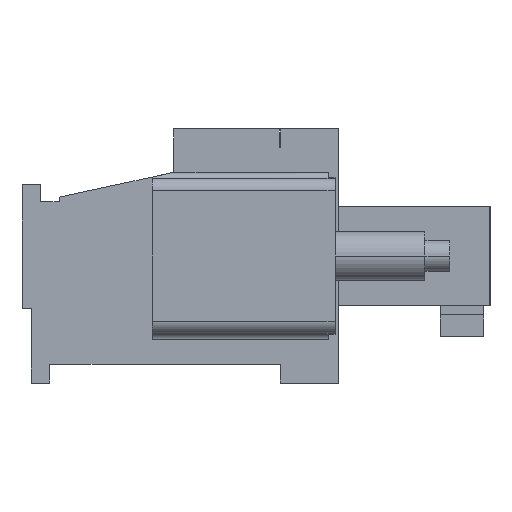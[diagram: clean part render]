
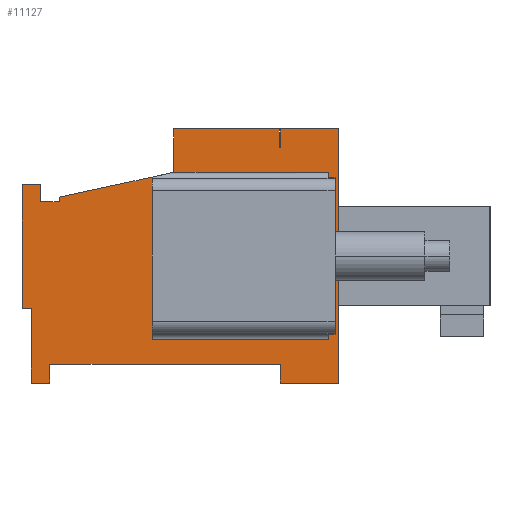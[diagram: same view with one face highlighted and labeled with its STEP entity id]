
A CAD part, left-side view. The second image highlights one B-rep face of the part: STEP entity #11127.
In plain terms, the highlighted planar face has unit normal (-1, 0, 0).
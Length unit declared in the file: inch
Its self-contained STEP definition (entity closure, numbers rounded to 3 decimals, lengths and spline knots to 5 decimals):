
#1=DIRECTION('',(0.,1.,0.));
#2=VECTOR('',#1,0.25);
#3=CARTESIAN_POINT('',(-0.8405,0.,-0.07));
#4=LINE('',#3,#2);
#5=DIRECTION('',(0.,0.,1.));
#6=VECTOR('',#5,0.07);
#7=CARTESIAN_POINT('',(-0.8405,0.25,-0.07));
#8=LINE('',#7,#6);
#9=DIRECTION('',(0.,-1.,0.));
#10=VECTOR('',#9,0.17);
#11=CARTESIAN_POINT('',(-0.8405,0.25,0.));
#12=LINE('',#11,#10);
#13=DIRECTION('',(0.,0.,-1.));
#14=VECTOR('',#13,0.03);
#15=CARTESIAN_POINT('',(-0.8405,0.08,0.));
#16=LINE('',#15,#14);
#17=DIRECTION('',(0.,-1.,0.));
#18=VECTOR('',#17,0.002);
#19=CARTESIAN_POINT('',(-0.8405,0.08,-0.03));
#20=LINE('',#19,#18);
#21=DIRECTION('',(0.,0.,1.));
#22=VECTOR('',#21,0.03);
#23=CARTESIAN_POINT('',(-0.8405,0.078,-0.03));
#24=LINE('',#23,#22);
#25=DIRECTION('',(0.,1.,0.));
#26=VECTOR('',#25,0.093);
#27=CARTESIAN_POINT('',(-0.8405,-0.015,0.));
#28=LINE('',#27,#26);
#29=DIRECTION('',(0.,0.,-1.));
#30=VECTOR('',#29,0.41);
#31=CARTESIAN_POINT('',(-0.8405,-0.015,0.));
#32=LINE('',#31,#30);
#33=DIRECTION('',(0.,-1.,0.));
#34=VECTOR('',#33,0.093);
#35=CARTESIAN_POINT('',(-0.8405,0.078,-0.41));
#36=LINE('',#35,#34);
#37=DIRECTION('',(0.,0.,1.));
#38=VECTOR('',#37,0.03);
#39=CARTESIAN_POINT('',(-0.8405,0.078,-0.41));
#40=LINE('',#39,#38);
#41=DIRECTION('',(0.,1.,0.));
#42=VECTOR('',#41,0.372);
#43=CARTESIAN_POINT('',(-0.8405,0.078,-0.38));
#44=LINE('',#43,#42);
#45=DIRECTION('',(0.,0.,-1.));
#46=VECTOR('',#45,0.03);
#47=CARTESIAN_POINT('',(-0.8405,0.45,-0.38));
#48=LINE('',#47,#46);
#49=DIRECTION('',(0.,1.,0.));
#50=VECTOR('',#49,0.03);
#51=CARTESIAN_POINT('',(-0.8405,0.45,-0.41));
#52=LINE('',#51,#50);
#53=DIRECTION('',(0.,0.,1.));
#54=VECTOR('',#53,0.12);
#55=CARTESIAN_POINT('',(-0.8405,0.48,-0.41));
#56=LINE('',#55,#54);
#57=DIRECTION('',(0.,1.,0.));
#58=VECTOR('',#57,0.015);
#59=CARTESIAN_POINT('',(-0.8405,0.48,-0.29));
#60=LINE('',#59,#58);
#61=DIRECTION('',(0.,0.,1.));
#62=VECTOR('',#61,0.2);
#63=CARTESIAN_POINT('',(-0.8405,0.495,-0.29));
#64=LINE('',#63,#62);
#65=DIRECTION('',(0.,-1.,0.));
#66=VECTOR('',#65,0.03);
#67=CARTESIAN_POINT('',(-0.8405,0.495,-0.09));
#68=LINE('',#67,#66);
#69=DIRECTION('',(0.,0.,-1.));
#70=VECTOR('',#69,0.0275);
#71=CARTESIAN_POINT('',(-0.8405,0.465,-0.09));
#72=LINE('',#71,#70);
#73=DIRECTION('',(0.,0.,1.));
#74=VECTOR('',#73,0.0075);
#75=CARTESIAN_POINT('',(-0.8405,0.435,-0.1175));
#76=LINE('',#75,#74);
#77=DIRECTION('',(0.,-0.977,0.211));
#78=VECTOR('',#77,0.15347);
#79=CARTESIAN_POINT('',(-0.8405,0.435,-0.11));
#80=LINE('',#79,#78);
#81=DIRECTION('',(0.,-1.,0.));
#82=VECTOR('',#81,0.285);
#83=CARTESIAN_POINT('',(-0.8405,0.285,-0.34));
#84=LINE('',#83,#82);
#104=DIRECTION('',(0.,0.,-1.));
#105=VECTOR('',#104,0.27);
#106=CARTESIAN_POINT('',(-0.8405,0.,-0.07));
#107=LINE('',#106,#105);
#195=DIRECTION('',(0.,0.,1.));
#196=VECTOR('',#195,0.26243);
#197=CARTESIAN_POINT('',(-0.8405,0.285,-0.34));
#198=LINE('',#197,#196);
#2413=DIRECTION('',(0.,-1.,0.));
#2414=VECTOR('',#2413,0.03);
#2415=CARTESIAN_POINT('',(-0.8405,0.465,-0.1175));
#2416=LINE('',#2415,#2414);
#8441=CARTESIAN_POINT('',(-0.8405,0.45,-0.38));
#8442=CARTESIAN_POINT('',(-0.8405,0.45,-0.41));
#8443=VERTEX_POINT('',#8441);
#8444=VERTEX_POINT('',#8442);
#8445=CARTESIAN_POINT('',(-0.8405,0.48,-0.41));
#8446=VERTEX_POINT('',#8445);
#8447=CARTESIAN_POINT('',(-0.8405,0.48,-0.29));
#8448=VERTEX_POINT('',#8447);
#8449=CARTESIAN_POINT('',(-0.8405,0.495,-0.29));
#8450=VERTEX_POINT('',#8449);
#8451=CARTESIAN_POINT('',(-0.8405,0.495,-0.09));
#8452=VERTEX_POINT('',#8451);
#8453=CARTESIAN_POINT('',(-0.8405,0.465,-0.09));
#8454=VERTEX_POINT('',#8453);
#8455=CARTESIAN_POINT('',(-0.8405,0.25,0.));
#8456=CARTESIAN_POINT('',(-0.8405,0.08,0.));
#8457=VERTEX_POINT('',#8455);
#8458=VERTEX_POINT('',#8456);
#8477=CARTESIAN_POINT('',(-0.8405,0.435,-0.11));
#8479=VERTEX_POINT('',#8477);
#8481=CARTESIAN_POINT('',(-0.8405,0.08,-0.03));
#8482=VERTEX_POINT('',#8481);
#8493=CARTESIAN_POINT('',(-0.8405,-0.015,0.));
#8494=CARTESIAN_POINT('',(-0.8405,0.078,0.));
#8495=VERTEX_POINT('',#8493);
#8496=VERTEX_POINT('',#8494);
#8497=CARTESIAN_POINT('',(-0.8405,0.078,-0.41));
#8498=CARTESIAN_POINT('',(-0.8405,-0.015,-0.41));
#8499=VERTEX_POINT('',#8497);
#8500=VERTEX_POINT('',#8498);
#8501=CARTESIAN_POINT('',(-0.8405,0.078,-0.38));
#8502=VERTEX_POINT('',#8501);
#8505=CARTESIAN_POINT('',(-0.8405,0.078,-0.03));
#8506=VERTEX_POINT('',#8505);
#8769=CARTESIAN_POINT('',(-0.8405,0.465,-0.1175));
#8771=VERTEX_POINT('',#8769);
#8779=CARTESIAN_POINT('',(-0.8405,0.435,-0.1175));
#8781=VERTEX_POINT('',#8779);
#8805=CARTESIAN_POINT('',(-0.8405,0.,-0.07));
#8806=CARTESIAN_POINT('',(-0.8405,0.25,-0.07));
#8807=VERTEX_POINT('',#8805);
#8808=VERTEX_POINT('',#8806);
#8813=CARTESIAN_POINT('',(-0.8405,0.285,-0.34));
#8814=CARTESIAN_POINT('',(-0.8405,0.,-0.34));
#8815=VERTEX_POINT('',#8813);
#8816=VERTEX_POINT('',#8814);
#8842=CARTESIAN_POINT('',(-0.8405,0.285,-0.07757));
#8843=VERTEX_POINT('',#8842);
#11072=CARTESIAN_POINT('',(-0.8405,0.,0.));
#11073=DIRECTION('',(1.,0.,0.));
#11074=DIRECTION('',(0.,0.,-1.));
#11075=AXIS2_PLACEMENT_3D('',#11072,#11073,#11074);
#11076=PLANE('',#11075);
#11078=ORIENTED_EDGE('',*,*,#11077,.T.);
#11080=ORIENTED_EDGE('',*,*,#11079,.T.);
#11082=ORIENTED_EDGE('',*,*,#11081,.T.);
#11084=ORIENTED_EDGE('',*,*,#11083,.T.);
#11086=ORIENTED_EDGE('',*,*,#11085,.T.);
#11088=ORIENTED_EDGE('',*,*,#11087,.T.);
#11090=ORIENTED_EDGE('',*,*,#11089,.F.);
#11092=ORIENTED_EDGE('',*,*,#11091,.T.);
#11094=ORIENTED_EDGE('',*,*,#11093,.F.);
#11096=ORIENTED_EDGE('',*,*,#11095,.T.);
#11098=ORIENTED_EDGE('',*,*,#11097,.T.);
#11100=ORIENTED_EDGE('',*,*,#11099,.T.);
#11102=ORIENTED_EDGE('',*,*,#11101,.T.);
#11104=ORIENTED_EDGE('',*,*,#11103,.T.);
#11106=ORIENTED_EDGE('',*,*,#11105,.T.);
#11108=ORIENTED_EDGE('',*,*,#11107,.T.);
#11110=ORIENTED_EDGE('',*,*,#11109,.T.);
#11112=ORIENTED_EDGE('',*,*,#11111,.T.);
#11114=ORIENTED_EDGE('',*,*,#11113,.T.);
#11116=ORIENTED_EDGE('',*,*,#11115,.T.);
#11118=ORIENTED_EDGE('',*,*,#11117,.T.);
#11120=ORIENTED_EDGE('',*,*,#11119,.F.);
#11122=ORIENTED_EDGE('',*,*,#11121,.T.);
#11124=ORIENTED_EDGE('',*,*,#11123,.F.);
#11125=EDGE_LOOP('',(#11078,#11080,#11082,#11084,#11086,#11088,#11090,#11092,
#11094,#11096,#11098,#11100,#11102,#11104,#11106,#11108,#11110,#11112,#11114,
#11116,#11118,#11120,#11122,#11124));
#11126=FACE_OUTER_BOUND('',#11125,.F.);
#11127=ADVANCED_FACE('',(#11126),#11076,.F.);
#11077=EDGE_CURVE('',#8807,#8808,#4,.T.);
#11079=EDGE_CURVE('',#8808,#8457,#8,.T.);
#11081=EDGE_CURVE('',#8457,#8458,#12,.T.);
#11083=EDGE_CURVE('',#8458,#8482,#16,.T.);
#11085=EDGE_CURVE('',#8482,#8506,#20,.T.);
#11087=EDGE_CURVE('',#8506,#8496,#24,.T.);
#11089=EDGE_CURVE('',#8495,#8496,#28,.T.);
#11091=EDGE_CURVE('',#8495,#8500,#32,.T.);
#11093=EDGE_CURVE('',#8499,#8500,#36,.T.);
#11095=EDGE_CURVE('',#8499,#8502,#40,.T.);
#11097=EDGE_CURVE('',#8502,#8443,#44,.T.);
#11099=EDGE_CURVE('',#8443,#8444,#48,.T.);
#11101=EDGE_CURVE('',#8444,#8446,#52,.T.);
#11103=EDGE_CURVE('',#8446,#8448,#56,.T.);
#11105=EDGE_CURVE('',#8448,#8450,#60,.T.);
#11107=EDGE_CURVE('',#8450,#8452,#64,.T.);
#11109=EDGE_CURVE('',#8452,#8454,#68,.T.);
#11111=EDGE_CURVE('',#8454,#8771,#72,.T.);
#11113=EDGE_CURVE('',#8771,#8781,#2416,.T.);
#11115=EDGE_CURVE('',#8781,#8479,#76,.T.);
#11117=EDGE_CURVE('',#8479,#8843,#80,.T.);
#11119=EDGE_CURVE('',#8815,#8843,#198,.T.);
#11121=EDGE_CURVE('',#8815,#8816,#84,.T.);
#11123=EDGE_CURVE('',#8807,#8816,#107,.T.);
